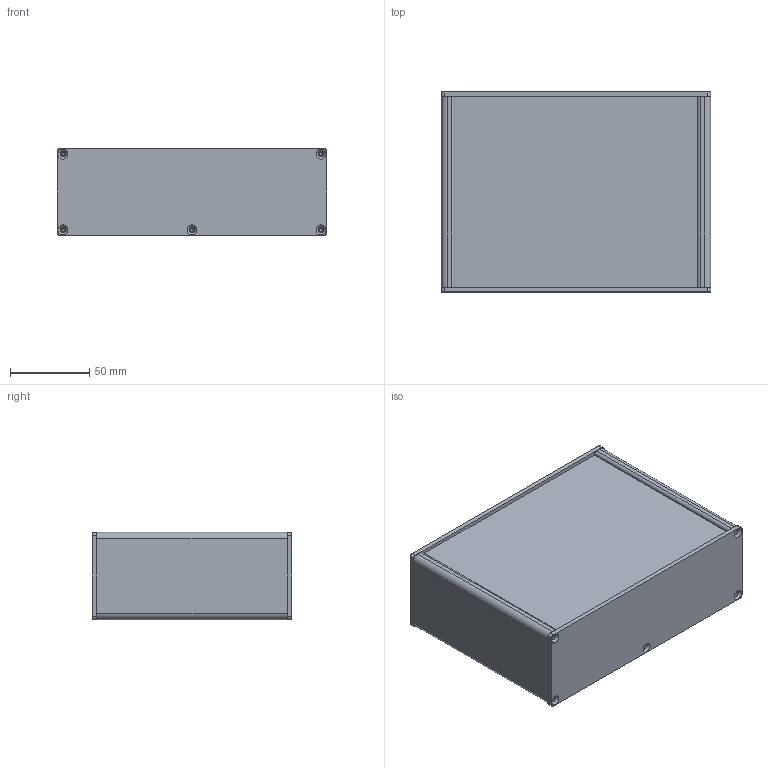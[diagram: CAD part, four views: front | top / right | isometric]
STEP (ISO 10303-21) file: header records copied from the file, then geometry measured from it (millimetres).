
FILE_DESCRIPTION (( 'STEP AP214' ), '1' );
FILE_NAME ('SP55_Zusammenbau.STEP', '2018-03-07T08:08:19', ( '' ), ( '' ), 'SwSTEP 2.0', 'SolidWorks 2017', '' );
FILE_SCHEMA (( 'AUTOMOTIVE_DESIGN' ));
Length unit declared in the file: millimetre
Products named in the file (6): eukap55-frontteil; EUKAP55-Profil; SP55_Zusammenbau
Assembly tree (3 placements, depth 2):
  eukap55-frontteil
  eukap55-frontteil
  EUKAP55-Profil
  SP55_Zusammenbau
    EUKAP55-Profil
    eukap55-frontteil  x2
Bounding box: 170 x 126 x 55 mm (x, y, z)
Volume: 234600 mm3; surface area: 157192.4 mm2
Topology: 4 solids, 4 shells, 176 faces, 474 edges, 306 vertices
Faces by surface type: plane 105, cylinder 41, cone 30
Full cylindrical faces by diameter (mm): 2.05 x10, 3.2 x10
Entity records: 4762 total; most frequent: CARTESIAN_POINT 803, DIRECTION 780, ORIENTED_EDGE 750, EDGE_CURVE 375, VECTOR 296, LINE 296, VERTEX_POINT 265, AXIS2_PLACEMENT_3D 242
